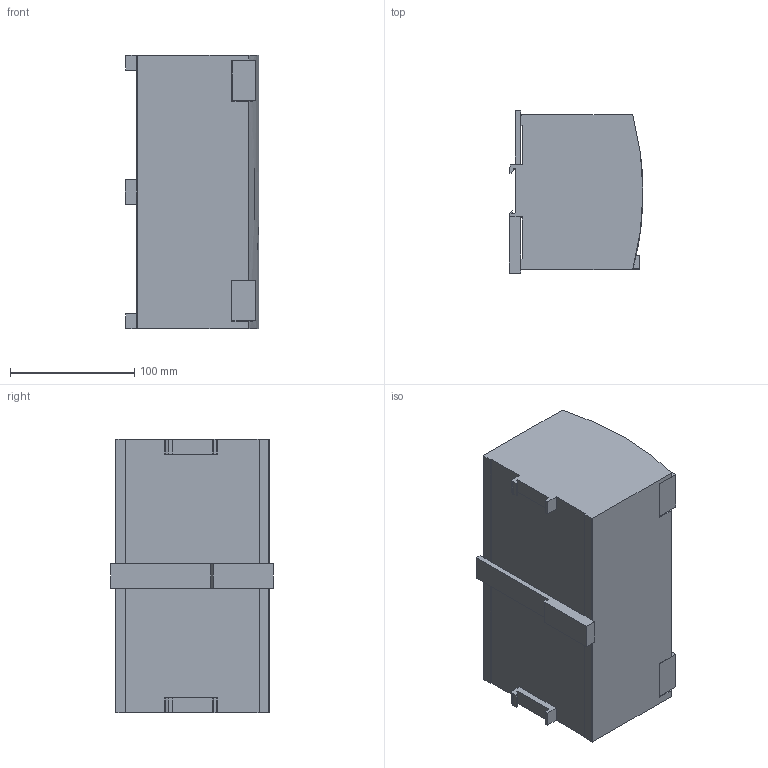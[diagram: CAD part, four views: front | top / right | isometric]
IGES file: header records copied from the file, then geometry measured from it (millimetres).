
Start section: SolidWorks IGES FILE using analytic representation for surfaces
Global section: file name: C:\Vertrieb\SL20_300\SL20_300.IGS; native system: SolidWorks 2003 by SolidWorks Corporation; preprocessor: Version 5.3; author: heinrij; date: 030917.105153; units: millimetre
Bounding box: 107.63 x 130.5 x 220 mm (x, y, z)
Surface area: 132048.7 mm2 (no closed solid volume)
Topology: 0 solids, 0 shells, 728 faces, 6888 edges, 6888 vertices
Faces by surface type: bspline 685, revolution 43
